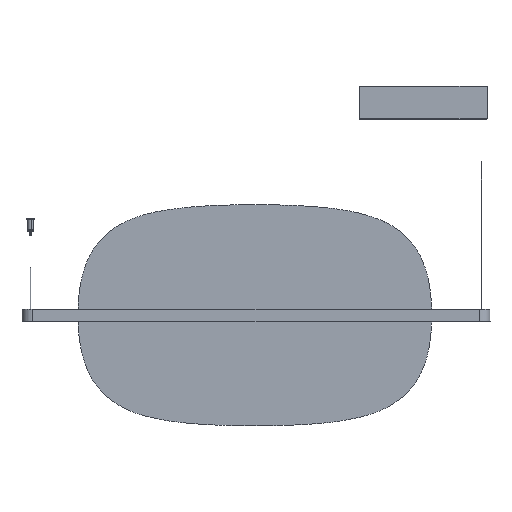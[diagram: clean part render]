
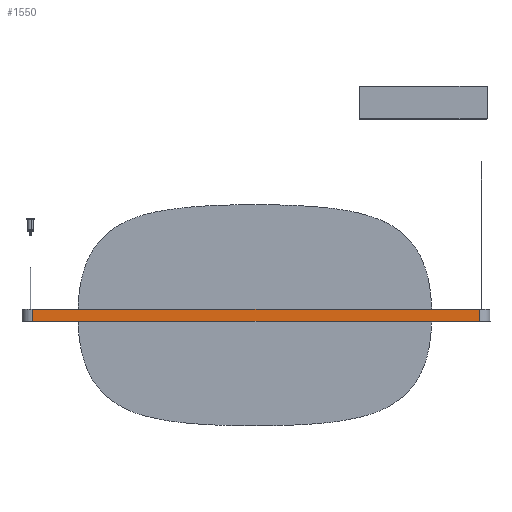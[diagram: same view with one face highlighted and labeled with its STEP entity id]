
A CAD part, front view. The second image highlights one B-rep face of the part: STEP entity #1550.
In plain terms, the highlighted planar face has unit normal (0, -1, 0).
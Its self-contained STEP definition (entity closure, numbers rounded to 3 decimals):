
#1550=ADVANCED_FACE('',(#2557),#17661,.T.);
#2557=FACE_OUTER_BOUND('',#3575,.T.);
#3575=EDGE_LOOP('',(#8038,#8039,#8040,#8041));
#8038=ORIENTED_EDGE('',*,*,#11791,.F.);
#8039=ORIENTED_EDGE('',*,*,#12019,.T.);
#8040=ORIENTED_EDGE('',*,*,#11720,.F.);
#8041=ORIENTED_EDGE('',*,*,#12005,.F.);
#11720=EDGE_CURVE('',#16522,#16523,#14458,.T.);
#11791=EDGE_CURVE('',#16654,#16655,#14525,.T.);
#12005=EDGE_CURVE('',#16655,#16522,#14644,.T.);
#12019=EDGE_CURVE('',#16654,#16523,#14649,.T.);
#14458=B_SPLINE_CURVE_WITH_KNOTS('',1,(#29021,#29022),.UNSPECIFIED.,.F.,
 .F.,(2,2),(0.,26.8),.UNSPECIFIED.);
#14525=B_SPLINE_CURVE_WITH_KNOTS('',1,(#29167,#29168),.UNSPECIFIED.,.F.,
 .F.,(2,2),(0.,26.8),.UNSPECIFIED.);
#14644=B_SPLINE_CURVE_WITH_KNOTS('',1,(#29690,#29691),.UNSPECIFIED.,.F.,
 .F.,(2,2),(0.,1010.),.UNSPECIFIED.);
#14649=B_SPLINE_CURVE_WITH_KNOTS('',1,(#29727,#29728),.UNSPECIFIED.,.F.,
 .F.,(2,2),(-1010.,0.),.UNSPECIFIED.);
#16522=VERTEX_POINT('',#28600);
#16523=VERTEX_POINT('',#28601);
#16654=VERTEX_POINT('',#28732);
#16655=VERTEX_POINT('',#28733);
#17661=PLANE('',#19311);
#19311=AXIS2_PLACEMENT_3D('',#28330,#20339,$);
#20339=DIRECTION('',(0.,-1.,0.));
#28330=CARTESIAN_POINT('',(-606.012,-25.451,16.092));
#28600=CARTESIAN_POINT('',(-505.,-25.451,-13.4));
#28601=CARTESIAN_POINT('',(-505.,-25.451,13.4));
#28732=CARTESIAN_POINT('',(505.,-25.451,13.4));
#28733=CARTESIAN_POINT('',(505.,-25.451,-13.4));
#29021=CARTESIAN_POINT('',(-505.,-25.451,-13.4));
#29022=CARTESIAN_POINT('',(-505.,-25.451,13.4));
#29167=CARTESIAN_POINT('',(505.,-25.451,13.4));
#29168=CARTESIAN_POINT('',(505.,-25.451,-13.4));
#29690=CARTESIAN_POINT('',(505.,-25.451,-13.4));
#29691=CARTESIAN_POINT('',(-505.,-25.451,-13.4));
#29727=CARTESIAN_POINT('',(505.,-25.451,13.4));
#29728=CARTESIAN_POINT('',(-505.,-25.451,13.4));
